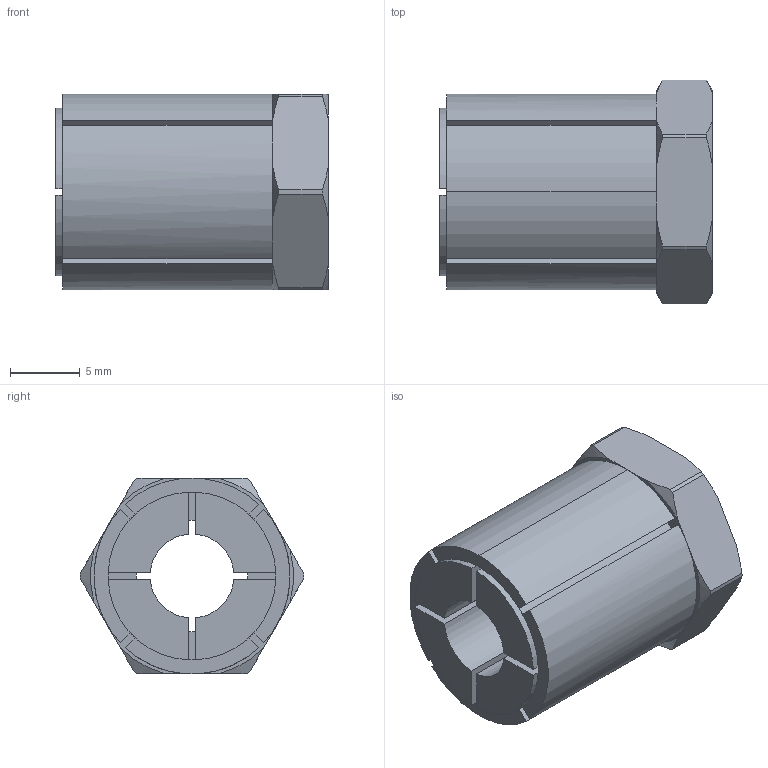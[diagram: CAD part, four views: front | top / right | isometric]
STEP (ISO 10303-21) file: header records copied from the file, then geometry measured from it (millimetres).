
FILE_DESCRIPTION (( 'STEP AP203' ), '1' );
FILE_NAME ('KBS 58 - 6 x 14.STEP', '2015-07-05T20:02:29', ( '' ), ( '' ), 'SwSTEP 2.0', 'SolidWorks 2010', '' );
FILE_SCHEMA (( 'CONFIG_CONTROL_DESIGN' ));
Length unit declared in the file: millimetre
Products named in the file (1): KBS 58 - 6 x 14
Bounding box: 19.5 x 16 x 14 mm (x, y, z)
Volume: 2335.2 mm3; surface area: 2088.4 mm2
Topology: 1 solids, 1 shells, 84 faces, 231 edges, 149 vertices
Faces by surface type: plane 42, cylinder 26, cone 16
Entity records: 2833 total; most frequent: CARTESIAN_POINT 601, ORIENTED_EDGE 462, DIRECTION 454, EDGE_CURVE 231, AXIS2_PLACEMENT_3D 170, VERTEX_POINT 149, VECTOR 114, LINE 114
